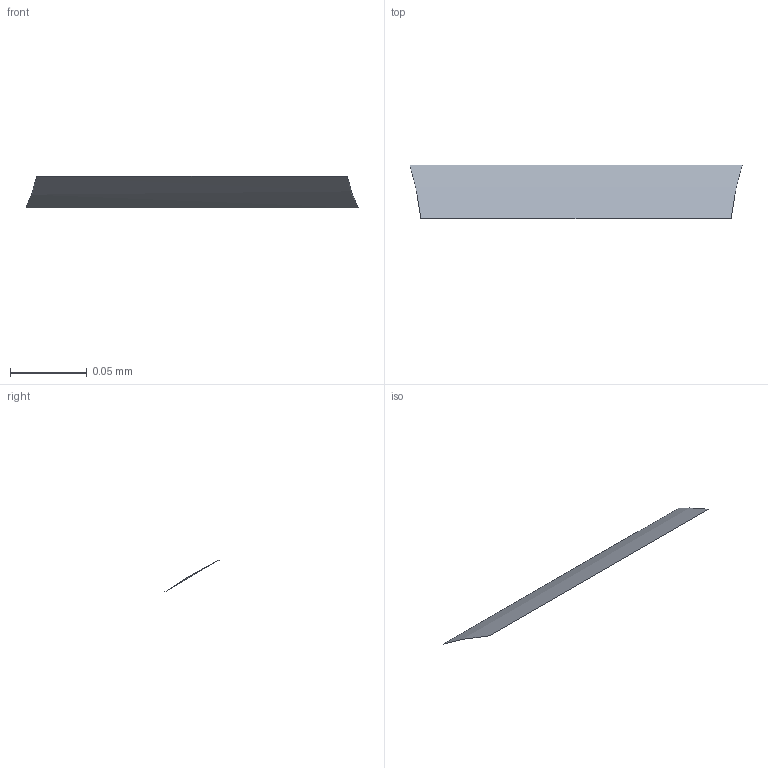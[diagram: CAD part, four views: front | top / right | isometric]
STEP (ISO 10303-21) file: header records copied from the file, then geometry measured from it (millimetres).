
FILE_DESCRIPTION(/* description */ ('STEP AP242 Edition 2','CAx-IF Rec.Pracs.---Representation and Presentation of Product Manufacturing Information (PMI)---4.0---2014-10-13','CAx-IF Rec.Pracs.---3D Tessellated Geometry---0.4---2014-09-14','2;1','CAx-IF Rec.Pracs.---User Defined Attributes---1.5---2016-08-15'),/* implementation_level */ '2;1');
FILE_NAME(/* name */ 'Assembly 1 - Part 46',/* time_stamp */ '2026-03-29T21:14:57Z',/* author */ (''),/* organization */ (''),/* preprocessor_version */ 'ST-DEVELOPER v20',/* originating_system */ 'ONSHAPE BY PTC INC, 1.212',/* authorisation */ ' ');
FILE_SCHEMA (('AP242_MANAGED_MODEL_BASED_3D_ENGINEERING_MIM_LF { 1 0 10303 442 3 1 4 }'));
Length unit declared in the file: metre
Products named in the file (1): Part 46
Bounding box: 0.22 x 0.04 x 0.02 mm (x, y, z)
Surface area: 0 mm2 (no closed solid volume)
Topology: 0 solids, 1 shells, 1 faces, 0 edges, 0 vertices
Faces by surface type: other 1
Entity records: 31 total; most frequent: DIRECTION 2, SHAPE_REPRESENTATION_RELATIONSHIP 1, TESSELLATED_SHAPE_REPRESENTATION 1, STYLED_ITEM 1, PRESENTATION_STYLE_ASSIGNMENT 1, SURFACE_STYLE_USAGE 1, SURFACE_SIDE_STYLE 1, SURFACE_STYLE_FILL_AREA 1
